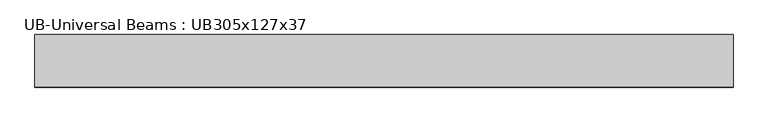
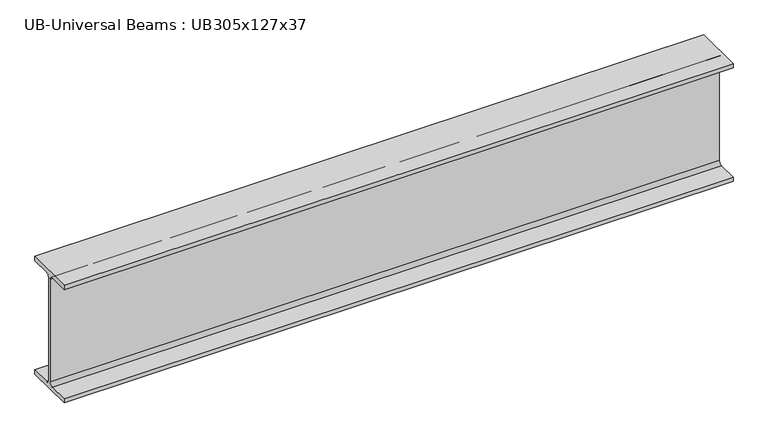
"""IFC4 building model written with IfcOpenShell, lengths in millimetres: beam geometry, UB-Universal Beams : UB305x127x37."""

import ifcopenshell
import ifcopenshell.guid

model = None  # the IFC model being written
_history = None  # IfcOwnerHistory: only IFC2X3 demands one
_inside = {}  # id of a spatial element -> (the spatial element, [elements in it])
_under = {}  # id of a project, library or spatial element -> (it, [spatial elements below it])
_declared = {}  # id of a project -> (the project, [libraries it declares])
_typed = {}  # id of a type object -> (the type object, [elements of that type])
_made_of = {}  # id of a material, layer set ... -> (it, [elements and type objects made of it])


def new_model(schema):
    """Start an empty IFC model of exactly this schema.

    Asked for "IFC4X3", IfcOpenShell would pick the latest addendum, in which some entities
    have other attributes; the version numbers below select the first issue.
    IFC2X3 requires an IfcOwnerHistory on every rooted entity: one is made here for all.
    """
    global model, _history
    if schema == "IFC4X3":
        model = ifcopenshell.file(schema_version=(4, 3, 0, 0))
    else:
        model = ifcopenshell.file(schema=schema)
    _inside.clear()
    _under.clear()
    _declared.clear()
    _typed.clear()
    _made_of.clear()
    _history = None
    if model.schema == "IFC2X3":
        org = make("IfcOrganization", Name="unknown")
        user = make(
            "IfcPersonAndOrganization",
            ThePerson=make("IfcPerson", FamilyName="unknown"),
            TheOrganization=org,
        )
        app = make(
            "IfcApplication",
            ApplicationDeveloper=org,
            Version="unknown",
            ApplicationFullName="unknown",
            ApplicationIdentifier="unknown",
        )
        _history = make(
            "IfcOwnerHistory",
            OwningUser=user,
            OwningApplication=app,
            ChangeAction="ADDED",
            CreationDate=0,
        )
    return model


def make(cls, **values):
    """One entity of the class cls with the attributes given. An attribute that is None is left unset."""
    return model.create_entity(
        cls, **{name: value for name, value in values.items() if value is not None}
    )


def rooted(cls, **values):
    """An entity with a GlobalId (a new one), such as an element, a storey or a relation."""
    return make(cls, GlobalId=ifcopenshell.guid.new(), OwnerHistory=_history, **values)


def si_unit(unit_type, name, prefix=None):
    """IfcSIUnit, for example si_unit("LENGTHUNIT", "METRE", prefix="MILLI")."""
    return make("IfcSIUnit", UnitType=unit_type, Prefix=prefix, Name=name)


def assignment(units):
    """IfcUnitAssignment: the units of a project."""
    return None if units is None else make("IfcUnitAssignment", Units=units)


def point(xyz):
    """IfcCartesianPoint."""
    return None if xyz is None else make("IfcCartesianPoint", Coordinates=xyz)


def direction(xyz):
    """IfcDirection."""
    return None if xyz is None else make("IfcDirection", DirectionRatios=xyz)


def frame(location, z_axis=None, x_axis=None):
    """IfcAxis2Placement3D, a coordinate frame: its origin and axes. An axis left out is left unset."""
    return make(
        "IfcAxis2Placement3D",
        Location=point(location),
        Axis=direction(z_axis),
        RefDirection=direction(x_axis),
    )


def frame_2d(location, x_axis=None):
    """IfcAxis2Placement2D, a coordinate frame in the plane: its origin and x axis."""
    return make(
        "IfcAxis2Placement2D", Location=point(location), RefDirection=direction(x_axis)
    )


def origin():
    """The frame at (0, 0, 0) with its axes left unset."""
    return frame((0.0, 0.0, 0.0))


def place(relative_to, where):
    """IfcLocalPlacement: puts the frame where relative to a parent placement (None: the world)."""
    return make(
        "IfcLocalPlacement", PlacementRelTo=relative_to, RelativePlacement=where
    )


def context(
    kind, dimensions, precision=None, world=None, true_north=None, identifier=None
):
    """IfcGeometricRepresentationContext, for example the 3D "Model" context."""
    return make(
        "IfcGeometricRepresentationContext",
        ContextIdentifier=identifier,
        ContextType=kind,
        CoordinateSpaceDimension=dimensions,
        Precision=precision,
        WorldCoordinateSystem=world,
        TrueNorth=true_north,
    )


def project(units=None, contexts=None):
    """IfcProject with its units and contexts."""
    return rooted(
        "IfcProject",
        Name="project",
        RepresentationContexts=contexts,
        UnitsInContext=assignment(units),
    )


def spatial(cls, under=None, at=None, **own):
    """A site, building, storey or space (cls), placed at a placement, below another one or the project."""
    s = rooted(cls, ObjectPlacement=at, **own)
    if under is not None:
        _under.setdefault(under.id(), (under, []))[1].append(s)
    return s


def polyline(points):
    """IfcPolyline through the points."""
    return make("IfcPolyline", Points=[point(p) for p in points])


def circle_curve(where, radius):
    """IfcCircle in the frame where."""
    return make("IfcCircle", Position=where, Radius=radius)


def trimmed(basis, trim1, trim2, sense, master):
    """IfcTrimmedCurve: the piece of a basis curve between two trims."""
    return make(
        "IfcTrimmedCurve",
        BasisCurve=basis,
        Trim1=trim1,
        Trim2=trim2,
        SenseAgreement=sense,
        MasterRepresentation=master,
    )


def segment(curve, same_sense, transition):
    """IfcCompositeCurveSegment."""
    return make(
        "IfcCompositeCurveSegment",
        Transition=transition,
        SameSense=same_sense,
        ParentCurve=curve,
    )


def composite_curve(segments, self_intersect=None):
    """IfcCompositeCurve: segments joined end to end."""
    return make("IfcCompositeCurve", Segments=segments, SelfIntersect=self_intersect)


def outline(outer, holes=None, kind="AREA"):
    """IfcArbitraryClosedProfileDef: a profile drawn as a closed curve; with holes, ...WithVoids."""
    if holes is None:
        return make("IfcArbitraryClosedProfileDef", ProfileType=kind, OuterCurve=outer)
    return make(
        "IfcArbitraryProfileDefWithVoids",
        ProfileType=kind,
        OuterCurve=outer,
        InnerCurves=holes,
    )


def extrude(swept, where, along, depth):
    """IfcExtrudedAreaSolid: the profile swept, set in the frame where, extruded along a direction by depth."""
    return make(
        "IfcExtrudedAreaSolid",
        SweptArea=swept,
        Position=where,
        ExtrudedDirection=direction(along),
        Depth=depth,
    )


def shape(context_of_items, identifier, shape_type, items):
    """IfcShapeRepresentation: the items that make up one representation, for example the "Body"."""
    return make(
        "IfcShapeRepresentation",
        ContextOfItems=context_of_items,
        RepresentationIdentifier=identifier,
        RepresentationType=shape_type,
        Items=items,
    )


def source(mapping_origin, context_of_items, identifier, shape_type, items):
    """IfcRepresentationMap: a shape defined once, which mapped items show again and again."""
    return make(
        "IfcRepresentationMap",
        MappingOrigin=mapping_origin,
        MappedRepresentation=shape(context_of_items, identifier, shape_type, items),
    )


def transform(
    local_origin,
    x_axis=None,
    y_axis=None,
    z_axis=None,
    scale=None,
    scale2=None,
    scale3=None,
    uniform=True,
):
    """IfcCartesianTransformationOperator3D, or its non-uniform kind. x_axis, y_axis, z_axis: its Axis1, 2, 3."""
    if uniform:
        return make(
            "IfcCartesianTransformationOperator3D",
            Axis1=direction(x_axis),
            Axis2=direction(y_axis),
            LocalOrigin=point(local_origin),
            Scale=scale,
            Axis3=direction(z_axis),
        )
    return make(
        "IfcCartesianTransformationOperator3DnonUniform",
        Axis1=direction(x_axis),
        Axis2=direction(y_axis),
        LocalOrigin=point(local_origin),
        Scale=scale,
        Axis3=direction(z_axis),
        Scale2=scale2,
        Scale3=scale3,
    )


def mapped(mapping_source, mapping_target):
    """IfcMappedItem: shows the shape of a source again, moved by a transform."""
    return make(
        "IfcMappedItem", MappingSource=mapping_source, MappingTarget=mapping_target
    )


def made_of(thing, what):
    """Note that an element or type object is made of a material, layer set ...; save() writes the relation."""
    if what is not None:
        _made_of.setdefault(what.id(), (what, []))[1].append(thing)
    return thing


def element(
    cls,
    number,
    at=None,
    inside=None,
    cuts=None,
    type_object=None,
    material=None,
    context=None,
    identifier="Body",
    shape_type=None,
    held_by="IfcProductDefinitionShape",
    body=None,
    shapes=None,
    **own,
):
    """One element of the class cls, such as IfcWall. Its Tag is "e" and its number.

    at: its placement. inside: the storey or other place that contains it. cuts: it is an
    opening in that element (IfcRelVoidsElement). A single representation is given by context,
    identifier, shape_type and body (its items); several are given by shapes. held_by: the class
    of the entity that holds the representations. save() writes the other relations.
    """
    e = rooted(cls, Tag="e%d" % number, ObjectPlacement=at, **own)
    if body is not None:
        shapes = [shape(context, identifier, shape_type, body)]
    if shapes is not None:
        e.Representation = make(held_by, Representations=shapes)
    if inside is not None:
        _inside.setdefault(inside.id(), (inside, []))[1].append(e)
    if cuts is not None:
        rooted(
            "IfcRelVoidsElement", RelatingBuildingElement=cuts, RelatedOpeningElement=e
        )
    if type_object is not None:
        _typed.setdefault(type_object.id(), (type_object, []))[1].append(e)
    return made_of(e, material)


def aggregate(whole, parts):
    """IfcRelAggregates: a whole, such as a stair, and the parts it consists of."""
    return rooted("IfcRelAggregates", RelatingObject=whole, RelatedObjects=parts)


def save(model, path):
    """Write the relations noted so far, then the file.

    IfcRelAggregates (storeys below a building ...), IfcRelContainedInSpatialStructure (elements
    in a storey), IfcRelDefinesByType, IfcRelAssociatesMaterial and IfcRelDeclares: one each for
    every whole, place, type object, material and project.
    """
    for whole, parts in _under.values():
        aggregate(whole, parts)
    for where, things in _inside.values():
        rooted(
            "IfcRelContainedInSpatialStructure",
            RelatedElements=things,
            RelatingStructure=where,
        )
    for kind, things in _typed.values():
        rooted("IfcRelDefinesByType", RelatedObjects=things, RelatingType=kind)
    for what, things in _made_of.values():
        rooted("IfcRelAssociatesMaterial", RelatedObjects=things, RelatingMaterial=what)
    for by, libraries in _declared.values():
        rooted("IfcRelDeclares", RelatingContext=by, RelatedDefinitions=libraries)
    model.write(path)


def ub_universal_beams_ub305x127x37_60794b88(model_context):
    return source(origin(), model_context, "Body", "SweptSolid", [
        extrude(outline(composite_curve([segment(polyline([(61.7, -141.5), (61.7, -152.2), (-61.7, -152.2), (-61.7, -141.5), (-12.45, -141.5)]), True, "CONTINUOUS"), segment(trimmed(circle_curve(frame_2d((-12.45, -132.6)), 8.9), [point((-12.45, -141.5))], [point((-3.55, -132.6))], True, "CARTESIAN"), True, "CONTINUOUS"), segment(polyline([(-3.55, -132.6), (-3.55, 132.6)]), True, "CONTINUOUS"), segment(trimmed(circle_curve(frame_2d((-12.45, 132.6)), 8.9), [point((-3.55, 132.6))], [point((-12.45, 141.5))], True, "CARTESIAN"), True, "CONTINUOUS"), segment(polyline([(-12.45, 141.5), (-61.7, 141.5), (-61.7, 152.2), (61.7, 152.2), (61.7, 141.5), (12.45, 141.5)]), True, "CONTINUOUS"), segment(trimmed(circle_curve(frame_2d((12.45, 132.6)), 8.9), [point((12.45, 141.5))], [point((3.55, 132.6))], True, "CARTESIAN"), True, "CONTINUOUS"), segment(polyline([(3.55, 132.6), (3.55, -132.6)]), True, "CONTINUOUS"), segment(trimmed(circle_curve(frame_2d((12.45, -132.6)), 8.9), [point((3.55, -132.6))], [point((12.45, -141.5))], True, "CARTESIAN"), True, "CONTINUOUS"), segment(polyline([(12.45, -141.5), (61.7, -141.5)]), True, "CONTINUOUS")], self_intersect=False)), frame((-830.7, 0.0, 0.0), z_axis=(1.0, 0.0, 0.0), x_axis=(0.0, 1.0, 0.0)), (0.0, 0.0, 1.0), 1638.3),
    ])


if __name__ == "__main__":
    model = new_model("IFC4")
    model_context = context("Model", 3, world=origin())
    ifc_project = project(units=[si_unit("LENGTHUNIT", "METRE", prefix="MILLI")], contexts=[model_context])
    site = spatial("IfcSite", under=ifc_project)
    building = spatial("IfcBuilding", under=site)
    placement = place(None, origin())
    ub_universal_beams_ub305x127x37_shape = ub_universal_beams_ub305x127x37_60794b88(model_context)
    element("IfcBeam", 1, ObjectType="UB-Universal Beams : UB305x127x37", at=placement, inside=building, context=model_context, shape_type="MappedRepresentation", body=[
        mapped(ub_universal_beams_ub305x127x37_shape, transform((0.0, 0.0, 0.0), x_axis=(1.0, 0.0, 0.0), y_axis=(0.0, 1.0, 0.0), z_axis=(0.0, 0.0, 1.0))),
    ])
    save(model, "model.ifc")
